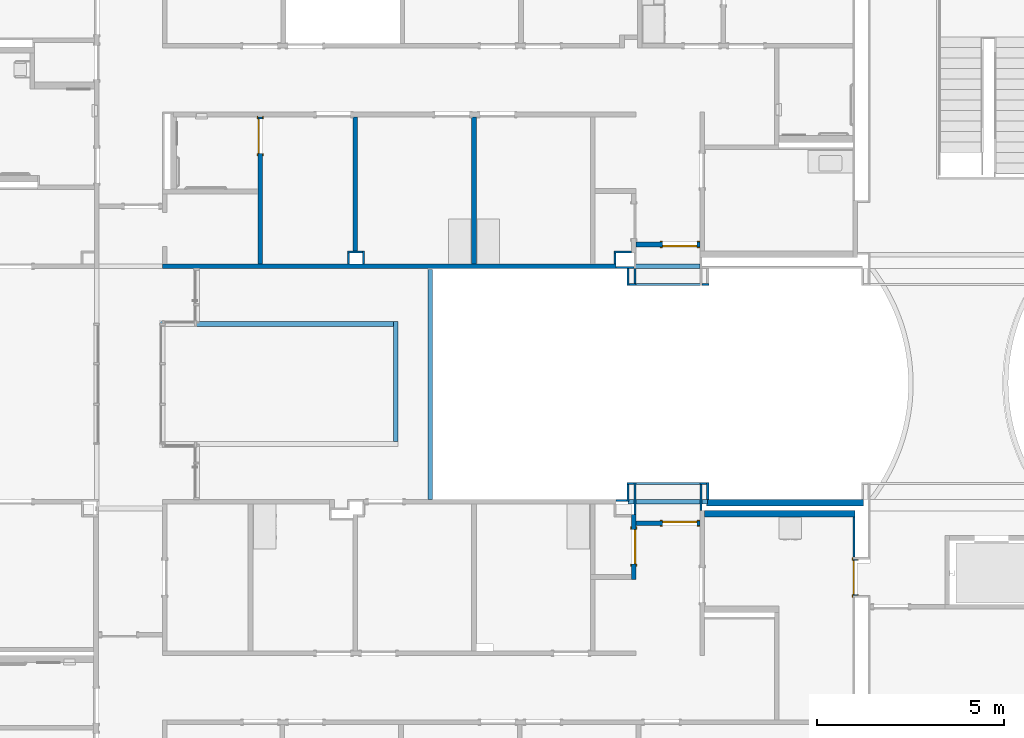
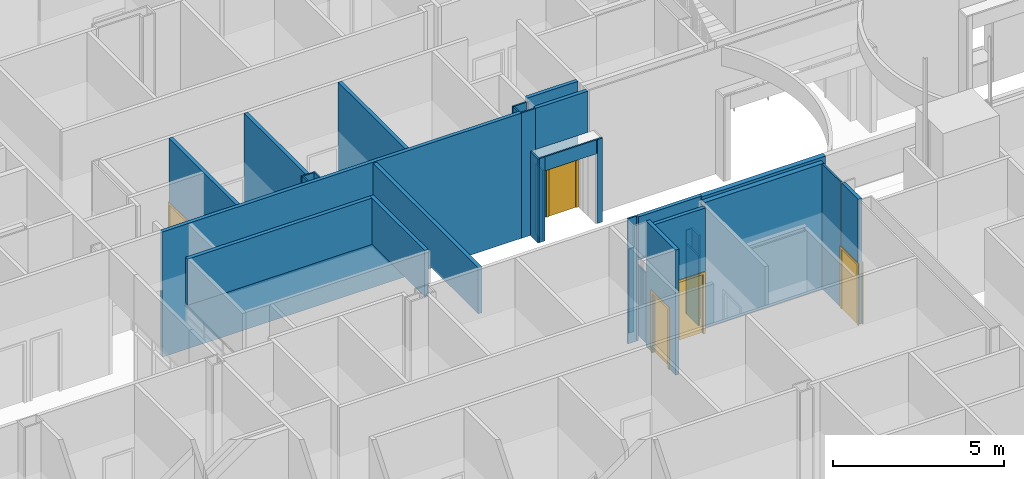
# One storey, part 29 of 87: 35 walls, 5 doors, 5 openings.
"""IFC2X3 building model written with IfcOpenShell, lengths in metres."""

from ifc_helpers import new_model, entity, si_unit, converted_unit, frame, frame_2d, origin, origin_2d_with_axis, place, context, project, spatial, polyline, rectangle, outline, extrude, source, transform, mapped, material, layer, layer_set, layer_usage, type_object, type_shapes, element, fill, save


model = new_model("IFC2X3")

# Units and contexts
model_context = context("Model", 3, precision=1e-09, world=origin())
plan_context = context("Plan", 3, precision=1e-09, world=origin())
ifc_project = project(units=[si_unit("LENGTHUNIT", "METRE"), si_unit("AREAUNIT", "SQUARE_METRE"), si_unit("VOLUMEUNIT", "CUBIC_METRE"), converted_unit("PLANEANGLEUNIT", "DEGREE", entity("IfcRatioMeasure", 0.01745329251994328), si_unit("PLANEANGLEUNIT", "RADIAN"), dimensions=[0, 0, 0, 0, 0, 0, 0]), si_unit("TIMEUNIT", "SECOND")], contexts=[model_context, plan_context])

# Site, building, storey
site_placement = place(None, origin())
site = spatial("IfcSite", under=ifc_project, at=site_placement, Name="Default", CompositionType="ELEMENT")
building_placement = place(site_placement, origin())
building = spatial("IfcBuilding", under=site, at=building_placement, CompositionType="ELEMENT")
storey_placement = place(building_placement, origin())
storey = spatial("IfcBuildingStorey", under=building, at=storey_placement, Name="First Floor", CompositionType="ELEMENT", Elevation=-3.531500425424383e-13)

# Wall
ifc_material_1 = material(Name="Plasterboard")
ifc_layer_1 = layer(ifc_material_1, 0.016)
ifc_material_2 = material(Name="Metal - Stud Layer")
ifc_layer_2 = layer(ifc_material_2, 0.092)
ifc_layer_3 = layer(ifc_material_1, 0.016)
ifc_layer_set_1 = layer_set([ifc_layer_1, ifc_layer_2, ifc_layer_3], Name="Basic Wall:Interior - Partition (92mm Stud)")
ifc_layer_usage_1 = layer_usage(ifc_layer_set_1, "AXIS2", "NEGATIVE", 0.062)
wall_1_placement = place(storey_placement, frame((-26.61400000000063, 34.8415481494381, 0.0), z_axis=(0.0, 0.0, 1.0), x_axis=(-1.0, 0.0, 0.0)))
element("IfcWallStandardCase", 1, at=wall_1_placement, inside=storey, material=ifc_layer_usage_1, Name="Basic Wall:Interior - Partition (92mm Stud)", ObjectType="Basic Wall:Interior - Partition (92mm Stud)", context=model_context, shape_type="SweptSolid", body=[
    extrude(rectangle(XDim=12.106, YDim=0.1239999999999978, at=frame_2d((6.052999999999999, 0.0), x_axis=(-1.0, 0.0))), origin(), (0.0, 0.0, 1.0), 4.468000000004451),
])

# Wall, opening, door
ifc_layer_usage_2 = layer_usage(ifc_layer_set_1, "AXIS2", "NEGATIVE", 0.062)
wall_2_placement = place(storey_placement, frame((-36.11200000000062, 38.8259999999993, 0.0), z_axis=(0.0, 0.0, 1.0), x_axis=(0.0, -1.0, 0.0)))
wall_2 = element("IfcWallStandardCase", 2, at=wall_2_placement, inside=storey, material=ifc_layer_usage_2, Name="Basic Wall:Interior - Partition (92mm Stud)", ObjectType="Basic Wall:Interior - Partition (92mm Stud)", context=model_context, shape_type="SweptSolid", body=[
    extrude(rectangle(XDim=3.922451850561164, YDim=0.1239999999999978, at=frame_2d((1.961225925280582, 0.0), x_axis=(-1.0, 0.0))), origin(), (0.0, 0.0, 1.0), 4.46800000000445),
])
opening_1_placement = place(wall_2_placement, frame((0.974999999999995, 0.06199999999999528, 0.0)))
opening_1 = element("IfcOpeningElement", 3, at=opening_1_placement, cuts=wall_2, Name="M_Single-Flush:0915 x 2134mm:0915 x 2134mm:1", ObjectType="Opening", context=model_context, shape_type="SweptSolid", body=[
    extrude(rectangle(XDim=0.9149999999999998, YDim=2.134, at=frame_2d((1.067, 0.4575), x_axis=(0.0, 1.0))), frame((0.0, 0.0, 0.0), z_axis=(0.0, -1.0, 0.0), x_axis=(0.0, 0.0, 1.0)), (0.0, 0.0, 1.0), 0.124),
])
door_style_1 = type_object("IfcDoorStyle", Name="0915 x 2134mm", ConstructionType="NOTDEFINED", OperationType="SINGLE_SWING_RIGHT", ParameterTakesPrecedence=False, Sizeable=False)
shared_shape_1 = source(origin(), model_context, "Body", "SweptSolid", [
    extrude(outline(polyline([(-0.5335, -1.123999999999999), (0.5334999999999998, -1.123999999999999), (0.5334999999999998, 1.086), (0.4574999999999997, 1.086), (0.4574999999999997, -1.048000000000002), (-0.4574999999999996, -1.048000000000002), (-0.4574999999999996, 1.086), (-0.5335, 1.086), (-0.5335, -1.123999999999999)])), frame((0.4575000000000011, 0.1239999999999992, 1.086), z_axis=(0.0, 1.0, 0.0), x_axis=(1.0, 0.0, 0.0)), (0.0, 0.0, 1.0), 0.02499999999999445),
    extrude(outline(polyline([(-1.123999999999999, -0.5334999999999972), (1.085999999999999, -0.5334999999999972), (1.085999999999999, -0.4575000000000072), (-1.048, -0.4575000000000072), (-1.048, 0.4575000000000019), (1.085999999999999, 0.4575000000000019), (1.085999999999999, 0.5335000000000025), (-1.123999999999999, 0.5335000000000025), (-1.123999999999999, -0.5334999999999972)])), frame((0.4575000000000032, -0.02500000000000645, 1.085999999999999), z_axis=(0.0, 1.0, 0.0), x_axis=(0.0, 0.0, -1.0)), (0.0, 0.0, 1.0), 0.02500000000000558),
    extrude(rectangle(XDim=0.051, YDim=0.9149999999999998, at=origin_2d_with_axis()), frame((0.4575000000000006, 0.09849999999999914, 0.0), z_axis=(0.0, 0.0, 1.0), x_axis=(0.0, 1.0, 0.0)), (0.0, 0.0, 1.0), 2.133999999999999),
])
type_shapes(door_style_1, [shared_shape_1])
door_1_placement = place(opening_1_placement, frame((0.0, 0.0, 0.0), z_axis=(0.0, 0.0, 1.0), x_axis=(-1.0, 0.0, 0.0)))
door_1 = element("IfcDoor", 4, at=door_1_placement, inside=storey, type_object=door_style_1, Name="M_Single-Flush:0915 x 2134mm:0915 x 2134mm", ObjectType="0915 x 2134mm", OverallHeight=2.134, OverallWidth=0.9149999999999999, context=model_context, shape_type="MappedRepresentation", body=[
    mapped(shared_shape_1, transform((0.0, 0.0, 0.0), scale=1.0)),
])
fill(opening_1, door_1)

# Walls
ifc_layer_usage_3 = layer_usage(ifc_layer_set_1, "AXIS2", "NEGATIVE", 0.062)
wall_3_placement = place(storey_placement, frame((-30.40200000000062, 38.82599999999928, 0.0), z_axis=(0.0, 0.0, 1.0), x_axis=(0.0, -1.0, 0.0)))
element("IfcWallStandardCase", 5, at=wall_3_placement, inside=storey, material=ifc_layer_usage_3, Name="Basic Wall:Interior - Partition (92mm Stud)", ObjectType="Basic Wall:Interior - Partition (92mm Stud)", context=model_context, shape_type="SweptSolid", body=[
    extrude(rectangle(XDim=3.922451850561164, YDim=0.1239999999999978, at=frame_2d((1.961225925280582, 0.0), x_axis=(-1.0, 0.0))), origin(), (0.0, 0.0, 1.0), 4.46800000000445),
])
ifc_layer_usage_4 = layer_usage(ifc_layer_set_1, "AXIS2", "NEGATIVE", 0.062)
wall_4_placement = place(storey_placement, frame((-33.57200000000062, 38.82599999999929, 0.0), z_axis=(0.0, 0.0, 1.0), x_axis=(0.0, -1.0, 0.0)))
element("IfcWallStandardCase", 6, at=wall_4_placement, inside=storey, material=ifc_layer_usage_4, Name="Basic Wall:Interior - Partition (92mm Stud)", ObjectType="Basic Wall:Interior - Partition (92mm Stud)", context=model_context, shape_type="SweptSolid", body=[
    extrude(rectangle(XDim=3.586000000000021, YDim=0.1239999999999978, at=frame_2d((1.79300000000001, 0.0), x_axis=(-1.0, 0.0))), origin(), (0.0, 0.0, 1.0), 4.46800000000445),
])

# Wall, opening, door
ifc_layer_usage_5 = layer_usage(ifc_layer_set_1, "AXIS2", "NEGATIVE", 0.062)
wall_5_placement = place(storey_placement, frame((-26.14200000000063, 28.20399999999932, 0.0), z_axis=(0.0, 0.0, 1.0), x_axis=(0.0, -1.0, 0.0)))
wall_5 = element("IfcWallStandardCase", 7, at=wall_5_placement, inside=storey, material=ifc_layer_usage_5, Name="Basic Wall:Interior - Partition (92mm Stud)", ObjectType="Basic Wall:Interior - Partition (92mm Stud)", context=model_context, shape_type="SweptSolid", body=[
    extrude(rectangle(XDim=1.723999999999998, YDim=0.1239999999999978, at=frame_2d((0.861999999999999, 0.0), x_axis=(-1.0, 0.0))), origin(), (0.0, 0.0, 1.0), 4.46800000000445),
])
opening_2_placement = place(wall_5_placement, frame((0.394000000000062, -0.0619999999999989, 0.0)))
opening_2 = element("IfcOpeningElement", 8, at=opening_2_placement, cuts=wall_5, Name="M_Single-Flush:0915 x 2134mm:0915 x 2134mm:1", ObjectType="Opening", context=model_context, shape_type="SweptSolid", body=[
    extrude(rectangle(XDim=0.9149999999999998, YDim=2.134, at=frame_2d((1.067, 0.4575), x_axis=(0.0, 1.0))), frame((0.0, 0.0, 0.0), z_axis=(0.0, 1.0, 0.0), x_axis=(0.0, 0.0, 1.0)), (0.0, 0.0, 1.0), 0.124),
])
door_2_placement = place(opening_2_placement, origin())
door_2 = element("IfcDoor", 9, at=door_2_placement, inside=storey, type_object=door_style_1, Name="M_Single-Flush:0915 x 2134mm:0915 x 2134mm", ObjectType="0915 x 2134mm", OverallHeight=2.134, OverallWidth=0.9149999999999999, context=model_context, shape_type="MappedRepresentation", body=[
    mapped(shared_shape_1, transform((0.0, 0.0, 0.0), scale=1.0)),
])
fill(opening_2, door_2)

# Walls
ifc_layer_4 = layer(ifc_material_2, 0.152)
ifc_layer_5 = layer(ifc_material_1, 0.016)
ifc_layer_set_2 = layer_set([ifc_layer_4, ifc_layer_5], Name="Basic Wall:Interior - Furring (152 mm Stud)")
ifc_layer_usage_6 = layer_usage(ifc_layer_set_2, "AXIS2", "POSITIVE", -0.08399999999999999)
wall_6_placement = place(storey_placement, frame((-24.18900000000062, 28.52599999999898, 0.0)))
element("IfcWallStandardCase", 10, at=wall_6_placement, inside=storey, material=ifc_layer_usage_6, Name="Basic Wall:Interior - Furring (152 mm Stud)", ObjectType="Basic Wall:Interior - Furring (152 mm Stud)", context=model_context, shape_type="SweptSolid", body=[
    extrude(rectangle(XDim=4.183000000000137, YDim=0.1680000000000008, at=frame_2d((2.091500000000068, 0.0), x_axis=(-1.0, 0.0))), origin(), (0.0, 0.0, 1.0), 4.46800000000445),
])
ifc_layer_usage_7 = layer_usage(ifc_layer_set_2, "AXIS2", "POSITIVE", -0.08399999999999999)
wall_7_placement = place(storey_placement, frame((-20.23600000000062, 28.23399999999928, 0.0), z_axis=(0.0, 0.0, 1.0), x_axis=(-1.0, 0.0, 0.0)))
element("IfcWallStandardCase", 11, at=wall_7_placement, inside=storey, material=ifc_layer_usage_7, Name="Basic Wall:Interior - Furring (152 mm Stud)", ObjectType="Basic Wall:Interior - Furring (152 mm Stud)", context=model_context, shape_type="SweptSolid", body=[
    extrude(rectangle(XDim=4.010000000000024, YDim=0.1679999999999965, at=frame_2d((2.005000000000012, 0.0), x_axis=(-1.0, 0.0))), origin(), (0.0, 0.0, 1.0), 4.46800000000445),
])

# Wall, opening, door
ifc_layer_usage_8 = layer_usage(ifc_layer_set_1, "AXIS2", "NEGATIVE", 0.062)
wall_8_placement = place(storey_placement, frame((-26.08000000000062, 35.41799999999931, 0.0)))
wall_8 = element("IfcWallStandardCase", 12, at=wall_8_placement, inside=storey, material=ifc_layer_usage_8, Name="Basic Wall:Interior - Partition (92mm Stud)", ObjectType="Basic Wall:Interior - Partition (92mm Stud)", context=model_context, shape_type="SweptSolid", body=[
    extrude(rectangle(XDim=1.710000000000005, YDim=0.1239999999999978, at=frame_2d((0.8550000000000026, 0.0), x_axis=(-1.0, 0.0))), origin(), (0.0, 0.0, 1.0), 4.46800000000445),
])
opening_3_placement = place(wall_8_placement, frame((1.630000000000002, 0.06199999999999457, 0.0)))
opening_3 = element("IfcOpeningElement", 13, at=opening_3_placement, cuts=wall_8, Name="M_Single-Flush:0915 x 2134mm:0915 x 2134mm:1", ObjectType="Opening", context=model_context, shape_type="SweptSolid", body=[
    extrude(rectangle(XDim=0.9149999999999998, YDim=2.134, at=frame_2d((1.067, 0.4575000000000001), x_axis=(0.0, -1.0))), frame((0.0, 0.0, 0.0), z_axis=(0.0, -1.0, 0.0), x_axis=(0.0, 0.0, 1.0)), (0.0, 0.0, 1.0), 0.124),
])
door_style_2 = type_object("IfcDoorStyle", Name="0915 x 2134mm", ConstructionType="NOTDEFINED", OperationType="SINGLE_SWING_LEFT", ParameterTakesPrecedence=False, Sizeable=False)
shared_shape_2 = source(origin(), model_context, "Body", "SweptSolid", [
    extrude(outline(polyline([(-0.5335, -1.123999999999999), (0.5334999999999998, -1.123999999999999), (0.5334999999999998, 1.086), (0.4574999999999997, 1.086), (0.4574999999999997, -1.048000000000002), (-0.4574999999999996, -1.048000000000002), (-0.4574999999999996, 1.086), (-0.5335, 1.086), (-0.5335, -1.123999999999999)])), frame((0.4575000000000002, 0.1489999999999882, 1.086), z_axis=(0.0, -1.0, 0.0), x_axis=(-1.0, 0.0, 0.0)), (0.0, 0.0, 1.0), 0.02499999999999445),
    extrude(outline(polyline([(-1.123999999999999, -0.5334999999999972), (1.085999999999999, -0.5334999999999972), (1.085999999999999, -0.4575000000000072), (-1.048, -0.4575000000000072), (-1.048, 0.4575000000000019), (1.085999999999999, 0.4575000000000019), (1.085999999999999, 0.5335000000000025), (-1.123999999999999, 0.5335000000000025), (-1.123999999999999, -0.5334999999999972)])), frame((0.4574999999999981, 0.0, 1.085999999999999), z_axis=(0.0, -1.0, 0.0), x_axis=(0.0, 0.0, -1.0)), (0.0, 0.0, 1.0), 0.02500000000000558),
    extrude(rectangle(XDim=0.9149999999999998, YDim=0.051, at=origin_2d_with_axis()), frame((0.4575000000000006, 0.09849999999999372, 0.0)), (0.0, 0.0, 1.0), 2.133999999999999),
])
type_shapes(door_style_2, [shared_shape_2])
door_3_placement = place(opening_3_placement, frame((0.0, 0.0, 0.0), z_axis=(0.0, 0.0, 1.0), x_axis=(-1.0, 0.0, 0.0)))
door_3 = element("IfcDoor", 14, at=door_3_placement, inside=storey, type_object=door_style_2, Name="M_Single-Flush:0915 x 2134mm:0915 x 2134mm", ObjectType="0915 x 2134mm", OverallHeight=2.134, OverallWidth=0.9149999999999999, context=model_context, shape_type="MappedRepresentation", body=[
    mapped(shared_shape_2, transform((0.0, 0.0, 0.0), scale=1.0)),
])
fill(opening_3, door_3)

ifc_layer_usage_9 = layer_usage(ifc_layer_set_1, "AXIS2", "NEGATIVE", 0.062)
wall_9_placement = place(storey_placement, frame((-24.37000000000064, 27.97199999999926, 0.0), z_axis=(0.0, 0.0, 1.0), x_axis=(-1.0, 0.0, 0.0)))
wall_9 = element("IfcWallStandardCase", 15, at=wall_9_placement, inside=storey, material=ifc_layer_usage_9, Name="Basic Wall:Interior - Partition (92mm Stud)", ObjectType="Basic Wall:Interior - Partition (92mm Stud)", context=model_context, shape_type="SweptSolid", body=[
    extrude(rectangle(XDim=1.709999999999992, YDim=0.1239999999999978, at=frame_2d((0.8549999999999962, 0.0), x_axis=(-1.0, 0.0))), origin(), (0.0, 0.0, 1.0), 4.46800000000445),
])
opening_4_placement = place(wall_9_placement, frame((0.9950000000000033, 0.0619999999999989, 0.0)))
opening_4 = element("IfcOpeningElement", 16, at=opening_4_placement, cuts=wall_9, Name="M_Single-Flush:0915 x 2134mm:0915 x 2134mm:1", ObjectType="Opening", context=model_context, shape_type="SweptSolid", body=[
    extrude(rectangle(XDim=0.9149999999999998, YDim=2.134, at=frame_2d((1.067, 0.4575), x_axis=(0.0, 1.0))), frame((0.0, 0.0, 0.0), z_axis=(0.0, -1.0, 0.0), x_axis=(0.0, 0.0, 1.0)), (0.0, 0.0, 1.0), 0.124),
])
door_4_placement = place(opening_4_placement, frame((0.0, 0.0, 0.0), z_axis=(0.0, 0.0, 1.0), x_axis=(-1.0, 0.0, 0.0)))
door_4 = element("IfcDoor", 17, at=door_4_placement, inside=storey, type_object=door_style_1, Name="M_Single-Flush:0915 x 2134mm:0915 x 2134mm", ObjectType="0915 x 2134mm", OverallHeight=2.134, OverallWidth=0.9149999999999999, context=model_context, shape_type="MappedRepresentation", body=[
    mapped(shared_shape_1, transform((0.0, 0.0, 0.0), scale=1.0)),
])
fill(opening_4, door_4)

# Walls
ifc_layer_usage_10 = layer_usage(ifc_layer_set_1, "AXIS2", "NEGATIVE", 0.062)
wall_10_placement = place(storey_placement, frame((-24.16200000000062, 28.54799999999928, 3.0), z_axis=(0.0, 0.0, 1.0), x_axis=(-1.0, 0.0, 0.0)))
element("IfcWallStandardCase", 18, at=wall_10_placement, inside=storey, material=ifc_layer_usage_10, Name="Basic Wall:Interior - Partition (92mm Stud)", ObjectType="Basic Wall:Interior - Partition (92mm Stud)", context=model_context, shape_type="SweptSolid", body=[
    extrude(rectangle(XDim=2.126000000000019, YDim=0.1239999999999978, at=frame_2d((1.06300000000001, 0.0), x_axis=(-1.0, 0.0))), origin(), (0.0, 0.0, 1.0), 1.46800000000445),
])
ifc_layer_usage_11 = layer_usage(ifc_layer_set_1, "AXIS2", "NEGATIVE", 0.062)
wall_11_placement = place(storey_placement, frame((-31.57200000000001, 34.75479450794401, 2.8), z_axis=(0.0, 0.0, 1.0), x_axis=(0.0, -1.0, 0.0)))
element("IfcWallStandardCase", 19, at=wall_11_placement, inside=storey, material=ifc_layer_usage_11, Name="Basic Wall:Interior - Partition (92mm Stud)", ObjectType="Basic Wall:Interior - Partition (92mm Stud)", context=model_context, shape_type="SweptSolid", body=[
    extrude(rectangle(XDim=6.144794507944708, YDim=0.1239999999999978, at=frame_2d((3.072397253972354, 0.0), x_axis=(-1.0, 0.0))), origin(), (0.0, 0.0, 1.0), 1.650000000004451),
])
ifc_layer_usage_12 = layer_usage(ifc_layer_set_1, "AXIS2", "NEGATIVE", 0.062)
wall_12_placement = place(storey_placement, frame((-24.37000000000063, 34.8415481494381, 3.0), z_axis=(0.0, 0.0, 1.0), x_axis=(-1.0, 0.0, 0.0)))
element("IfcWallStandardCase", 20, at=wall_12_placement, inside=storey, material=ifc_layer_usage_12, Name="Basic Wall:Interior - Partition (92mm Stud)", ObjectType="Basic Wall:Interior - Partition (92mm Stud)", context=model_context, shape_type="SweptSolid", body=[
    extrude(rectangle(XDim=1.763999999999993, YDim=0.1239999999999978, at=frame_2d((0.8819999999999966, 0.0), x_axis=(-1.0, 0.0))), origin(), (0.0, 0.0, 1.0), 1.46800000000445),
])
ifc_layer_usage_13 = layer_usage(ifc_layer_set_1, "AXIS2", "NEGATIVE", 0.062)
wall_13_placement = place(storey_placement, frame((-32.54900000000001, 33.2969999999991, 2.8), z_axis=(0.0, 0.0, 1.0), x_axis=(-1.0, 0.0, 0.0)))
element("IfcWallStandardCase", 21, at=wall_13_placement, inside=storey, material=ifc_layer_usage_13, Name="Basic Wall:Interior - Partition (92mm Stud)", ObjectType="Basic Wall:Interior - Partition (92mm Stud)", context=model_context, shape_type="SweptSolid", body=[
    extrude(rectangle(XDim=6.220000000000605, YDim=0.1239999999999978, at=frame_2d((3.110000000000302, 0.0), x_axis=(-1.0, 0.0))), origin(), (0.0, 0.0, 1.0), 1.650000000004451),
])
ifc_layer_usage_14 = layer_usage(ifc_layer_set_1, "AXIS2", "NEGATIVE", 0.062)
wall_14_placement = place(storey_placement, frame((-32.48700000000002, 30.15499999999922, 2.8), z_axis=(0.0, 0.0, 1.0), x_axis=(0.0, 1.0, 0.0)))
element("IfcWallStandardCase", 22, at=wall_14_placement, inside=storey, material=ifc_layer_usage_14, Name="Basic Wall:Interior - Partition (92mm Stud)", ObjectType="Basic Wall:Interior - Partition (92mm Stud)", context=model_context, shape_type="SweptSolid", body=[
    extrude(rectangle(XDim=3.203999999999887, YDim=0.1239999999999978, at=frame_2d((1.601999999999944, 0.0), x_axis=(-1.0, 0.0))), origin(), (0.0, 0.0, 1.0), 1.650000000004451),
])
ifc_layer_6 = layer(ifc_material_2, 0.038)
ifc_layer_7 = layer(ifc_material_1, 0.016)
ifc_layer_set_3 = layer_set([ifc_layer_6, ifc_layer_7], Name="Basic Wall:Interior - Furring (38 mm Stud)")
ifc_layer_usage_15 = layer_usage(ifc_layer_set_3, "AXIS2", "NEGATIVE", 0.027)
wall_15_placement = place(storey_placement, frame((-24.16200000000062, 28.60999999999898, 0.0), z_axis=(0.0, 0.0, 1.0), x_axis=(0.0, 1.0, 0.0)))
element("IfcWallStandardCase", 23, at=wall_15_placement, inside=storey, material=ifc_layer_usage_15, Name="Basic Wall:Interior - Furring (38 mm Stud)", ObjectType="Basic Wall:Interior - Furring (38 mm Stud)", context=model_context, shape_type="SweptSolid", body=[
    extrude(rectangle(XDim=0.4600000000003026, YDim=0.05399999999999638, at=frame_2d((0.2300000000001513, 0.0), x_axis=(-1.0, 0.0))), origin(), (0.0, 0.0, 1.0), 3.0),
])
ifc_layer_usage_16 = layer_usage(ifc_layer_set_3, "AXIS2", "NEGATIVE", 0.027)
wall_16_placement = place(storey_placement, frame((-24.18900000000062, 29.04299999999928, 0.0), z_axis=(0.0, 0.0, 1.0), x_axis=(-1.0, 0.0, 0.0)))
element("IfcWallStandardCase", 24, at=wall_16_placement, inside=storey, material=ifc_layer_usage_16, Name="Basic Wall:Interior - Furring (38 mm Stud)", ObjectType="Basic Wall:Interior - Furring (38 mm Stud)", context=model_context, shape_type="SweptSolid", body=[
    extrude(rectangle(XDim=0.1810000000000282, YDim=0.05399999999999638, at=frame_2d((0.09050000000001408, 0.0), x_axis=(-1.0, 0.0))), origin(), (0.0, 0.0, 1.0), 3.0),
])
ifc_layer_usage_17 = layer_usage(ifc_layer_set_3, "AXIS2", "NEGATIVE", 0.027)
wall_17_placement = place(storey_placement, frame((-24.34300000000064, 29.01599999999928, 0.0), z_axis=(0.0, 0.0, 1.0), x_axis=(0.0, -1.0, 0.0)))
element("IfcWallStandardCase", 25, at=wall_17_placement, inside=storey, material=ifc_layer_usage_17, Name="Basic Wall:Interior - Furring (38 mm Stud)", ObjectType="Basic Wall:Interior - Furring (38 mm Stud)", context=model_context, shape_type="SweptSolid", body=[
    extrude(rectangle(XDim=0.6979999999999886, YDim=0.05399999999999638, at=frame_2d((0.3489999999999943, 0.0), x_axis=(-1.0, 0.0))), origin(), (0.0, 0.0, 1.0), 2.5),
])
ifc_layer_usage_18 = layer_usage(ifc_layer_set_3, "AXIS2", "NEGATIVE", 0.027)
wall_18_placement = place(storey_placement, frame((-26.10700000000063, 28.20399999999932, 0.0), z_axis=(0.0, 0.0, 1.0), x_axis=(0.0, 1.0, 0.0)))
element("IfcWallStandardCase", 26, at=wall_18_placement, inside=storey, material=ifc_layer_usage_18, Name="Basic Wall:Interior - Furring (38 mm Stud)", ObjectType="Basic Wall:Interior - Furring (38 mm Stud)", context=model_context, shape_type="SweptSolid", body=[
    extrude(rectangle(XDim=0.865999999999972, YDim=0.05399999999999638, at=frame_2d((0.432999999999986, 0.0), x_axis=(-1.0, 0.0))), origin(), (0.0, 0.0, 1.0), 2.5),
])
ifc_layer_usage_19 = layer_usage(ifc_layer_set_3, "AXIS2", "NEGATIVE", 0.027)
wall_19_placement = place(storey_placement, frame((-26.10700000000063, 29.04299999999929, 0.0), z_axis=(0.0, 0.0, 1.0), x_axis=(-1.0, 0.0, 0.0)))
element("IfcWallStandardCase", 27, at=wall_19_placement, inside=storey, material=ifc_layer_usage_19, Name="Basic Wall:Interior - Furring (38 mm Stud)", ObjectType="Basic Wall:Interior - Furring (38 mm Stud)", context=model_context, shape_type="SweptSolid", body=[
    extrude(rectangle(XDim=0.1810000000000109, YDim=0.05400000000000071, at=frame_2d((0.1175000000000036, 0.0), x_axis=(-1.0, 0.0))), origin(), (0.0, 0.0, 1.0), 3.0),
])
ifc_layer_usage_20 = layer_usage(ifc_layer_set_3, "AXIS2", "NEGATIVE", 0.027)
wall_20_placement = place(storey_placement, frame((-26.28800000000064, 29.01599999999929, 0.0), z_axis=(0.0, 0.0, 1.0), x_axis=(0.0, -1.0, 0.0)))
element("IfcWallStandardCase", 28, at=wall_20_placement, inside=storey, material=ifc_layer_usage_20, Name="Basic Wall:Interior - Furring (38 mm Stud)", ObjectType="Basic Wall:Interior - Furring (38 mm Stud)", context=model_context, shape_type="SweptSolid", body=[
    extrude(rectangle(XDim=0.4600000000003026, YDim=0.05399999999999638, at=frame_2d((0.2300000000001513, 0.0), x_axis=(-1.0, 0.0))), origin(), (0.0, 0.0, 1.0), 3.0),
])
ifc_layer_usage_21 = layer_usage(ifc_layer_set_3, "AXIS2", "NEGATIVE", 0.027)
wall_21_placement = place(storey_placement, frame((-20.26300000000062, 28.14999999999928, 0.0), z_axis=(0.0, 0.0, 1.0), x_axis=(0.0, -1.0, 0.0)))
element("IfcWallStandardCase", 29, at=wall_21_placement, inside=storey, material=ifc_layer_usage_21, Name="Basic Wall:Interior - Furring (38 mm Stud)", ObjectType="Basic Wall:Interior - Furring (38 mm Stud)", context=model_context, shape_type="SweptSolid", body=[
    extrude(rectangle(XDim=1.080999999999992, YDim=0.05399999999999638, at=frame_2d((0.5404999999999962, 0.0), x_axis=(-1.0, 0.0))), origin(), (0.0, 0.0, 1.0), 4.46800000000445),
])

# Wall, opening, door
ifc_layer_usage_22 = layer_usage(ifc_layer_set_1, "AXIS2", "POSITIVE", -0.062)
wall_22_placement = place(storey_placement, frame((-20.22800000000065, 27.01499999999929, 0.0), z_axis=(0.0, 0.0, 1.0), x_axis=(0.0, -1.0, 0.0)))
wall_22 = element("IfcWallStandardCase", 30, at=wall_22_placement, inside=storey, material=ifc_layer_usage_22, Name="Basic Wall:Interior - Partition (92mm Stud)", ObjectType="Basic Wall:Interior - Partition (92mm Stud)", context=model_context, shape_type="SweptSolid", body=[
    extrude(rectangle(XDim=0.9690000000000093, YDim=0.1239999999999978, at=frame_2d((0.4845000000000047, 0.0), x_axis=(-1.0, 0.0))), origin(), (0.0, 0.0, 1.0), 4.46800000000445),
])
opening_5_placement = place(wall_22_placement, frame((0.942000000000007, 0.06200000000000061, 0.0)))
opening_5 = element("IfcOpeningElement", 31, at=opening_5_placement, cuts=wall_22, Name="M_Single-Flush:0915 x 2134mm:0915 x 2134mm:1", ObjectType="Opening", context=model_context, shape_type="SweptSolid", body=[
    extrude(rectangle(XDim=0.9149999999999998, YDim=2.134, at=frame_2d((1.067, 0.4575000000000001), x_axis=(0.0, -1.0))), frame((0.0, 0.0, 0.0), z_axis=(0.0, -1.0, 0.0), x_axis=(0.0, 0.0, 1.0)), (0.0, 0.0, 1.0), 0.124),
])
door_5_placement = place(opening_5_placement, frame((0.0, 0.0, 0.0), z_axis=(0.0, 0.0, 1.0), x_axis=(-1.0, 0.0, 0.0)))
door_5 = element("IfcDoor", 32, at=door_5_placement, inside=storey, type_object=door_style_2, Name="M_Single-Flush:0915 x 2134mm:0915 x 2134mm", ObjectType="0915 x 2134mm", OverallHeight=2.134, OverallWidth=0.9149999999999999, context=model_context, shape_type="MappedRepresentation", body=[
    mapped(shared_shape_2, transform((0.0, 0.0, 0.0), scale=1.0)),
])
fill(opening_5, door_5)

# Walls
ifc_layer_usage_23 = layer_usage(ifc_layer_set_3, "AXIS2", "NEGATIVE", 0.027)
wall_23_placement = place(storey_placement, frame((-26.28800000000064, 28.58299999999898, 0.0), z_axis=(0.0, 0.0, 1.0), x_axis=(-1.0, 0.0, 0.0)))
element("IfcWallStandardCase", 33, at=wall_23_placement, inside=storey, material=ifc_layer_usage_23, Name="Basic Wall:Interior - Furring (38 mm Stud)", ObjectType="Basic Wall:Interior - Furring (38 mm Stud)", context=model_context, shape_type="SweptSolid", body=[
    extrude(rectangle(XDim=0.3009999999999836, YDim=0.05400000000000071, at=frame_2d((0.1774999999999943, 0.0), x_axis=(-1.0, 0.0))), origin(), (0.0, 0.0, 1.0), 4.46800000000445),
])
ifc_layer_usage_24 = layer_usage(ifc_layer_set_3, "AXIS2", "NEGATIVE", 0.027)
wall_24_placement = place(storey_placement, frame((-33.34700000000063, 34.90354814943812, 0.0), z_axis=(0.0, 0.0, 1.0), x_axis=(0.0, 1.0, 0.0)))
element("IfcWallStandardCase", 34, at=wall_24_placement, inside=storey, material=ifc_layer_usage_24, Name="Basic Wall:Interior - Furring (38 mm Stud)", ObjectType="Basic Wall:Interior - Furring (38 mm Stud)", context=model_context, shape_type="SweptSolid", body=[
    extrude(rectangle(XDim=0.3364518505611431, YDim=0.05399999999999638, at=frame_2d((0.1682259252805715, 0.0), x_axis=(-1.0, 0.0))), origin(), (0.0, 0.0, 1.0), 4.46800000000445),
])
ifc_layer_usage_25 = layer_usage(ifc_layer_set_3, "AXIS2", "NEGATIVE", 0.027)
wall_25_placement = place(storey_placement, frame((-33.37400000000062, 35.21299999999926, 0.0), z_axis=(0.0, 0.0, 1.0), x_axis=(-1.0, 0.0, 0.0)))
element("IfcWallStandardCase", 35, at=wall_25_placement, inside=storey, material=ifc_layer_usage_25, Name="Basic Wall:Interior - Furring (38 mm Stud)", ObjectType="Basic Wall:Interior - Furring (38 mm Stud)", context=model_context, shape_type="SweptSolid", body=[
    extrude(rectangle(XDim=0.4060000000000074, YDim=0.05399999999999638, at=frame_2d((0.2030000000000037, 0.0), x_axis=(-1.0, 0.0))), origin(), (0.0, 0.0, 1.0), 4.46800000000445),
])
ifc_layer_usage_26 = layer_usage(ifc_layer_set_3, "AXIS2", "NEGATIVE", 0.027)
wall_26_placement = place(storey_placement, frame((-33.75300000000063, 35.18599999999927, 0.0), z_axis=(0.0, 0.0, 1.0), x_axis=(0.0, -1.0, 0.0)))
element("IfcWallStandardCase", 36, at=wall_26_placement, inside=storey, material=ifc_layer_usage_26, Name="Basic Wall:Interior - Furring (38 mm Stud)", ObjectType="Basic Wall:Interior - Furring (38 mm Stud)", context=model_context, shape_type="SweptSolid", body=[
    extrude(rectangle(XDim=0.2824518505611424, YDim=0.05399999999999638, at=frame_2d((0.1412259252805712, 0.0), x_axis=(-1.0, 0.0))), origin(), (0.0, 0.0, 1.0), 4.46800000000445),
])
ifc_layer_usage_27 = layer_usage(ifc_layer_set_3, "AXIS2", "NEGATIVE", 0.027)
wall_27_placement = place(storey_placement, frame((-26.20400000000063, 35.21299999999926, 0.0), z_axis=(0.0, 0.0, 1.0), x_axis=(-1.0, 0.0, 0.0)))
element("IfcWallStandardCase", 37, at=wall_27_placement, inside=storey, material=ifc_layer_usage_27, Name="Basic Wall:Interior - Furring (38 mm Stud)", ObjectType="Basic Wall:Interior - Furring (38 mm Stud)", context=model_context, shape_type="SweptSolid", body=[
    extrude(rectangle(XDim=0.4639999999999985, YDim=0.05399999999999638, at=frame_2d((0.2319999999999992, 0.0), x_axis=(-1.0, 0.0))), origin(), (0.0, 0.0, 1.0), 4.46800000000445),
])
ifc_layer_usage_28 = layer_usage(ifc_layer_set_3, "AXIS2", "NEGATIVE", 0.027)
wall_28_placement = place(storey_placement, frame((-26.64100000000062, 35.18599999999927, 0.0), z_axis=(0.0, 0.0, 1.0), x_axis=(0.0, -1.0, 0.0)))
element("IfcWallStandardCase", 38, at=wall_28_placement, inside=storey, material=ifc_layer_usage_28, Name="Basic Wall:Interior - Furring (38 mm Stud)", ObjectType="Basic Wall:Interior - Furring (38 mm Stud)", context=model_context, shape_type="SweptSolid", body=[
    extrude(rectangle(XDim=0.282451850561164, YDim=0.05399999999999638, at=frame_2d((0.141225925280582, 0.0), x_axis=(-1.0, 0.0))), origin(), (0.0, 0.0, 1.0), 4.46800000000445),
])
ifc_layer_usage_29 = layer_usage(ifc_layer_set_3, "AXIS2", "NEGATIVE", 0.027)
wall_29_placement = place(storey_placement, frame((-26.61400000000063, 34.8065481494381, 0.0)))
element("IfcWallStandardCase", 39, at=wall_29_placement, inside=storey, material=ifc_layer_usage_29, Name="Basic Wall:Interior - Furring (38 mm Stud)", ObjectType="Basic Wall:Interior - Furring (38 mm Stud)", context=model_context, shape_type="SweptSolid", body=[
    extrude(rectangle(XDim=0.4800000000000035, YDim=0.05399999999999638, at=frame_2d((0.2400000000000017, 0.0), x_axis=(-1.0, 0.0))), origin(), (0.0, 0.0, 1.0), 4.46800000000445),
])
ifc_layer_usage_30 = layer_usage(ifc_layer_set_3, "AXIS2", "NEGATIVE", 0.027)
wall_30_placement = place(storey_placement, frame((-26.28800000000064, 34.77954814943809, 0.0), z_axis=(0.0, 0.0, 1.0), x_axis=(0.0, -1.0, 0.0)))
element("IfcWallStandardCase", 40, at=wall_30_placement, inside=storey, material=ifc_layer_usage_30, Name="Basic Wall:Interior - Furring (38 mm Stud)", ObjectType="Basic Wall:Interior - Furring (38 mm Stud)", context=model_context, shape_type="SweptSolid", body=[
    extrude(rectangle(XDim=0.4595462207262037, YDim=0.05399999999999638, at=frame_2d((0.2297731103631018, 0.0), x_axis=(-1.0, 0.0))), origin(), (0.0, 0.0, 1.0), 3.0),
])
ifc_layer_usage_31 = layer_usage(ifc_layer_set_3, "AXIS2", "NEGATIVE", 0.027)
wall_31_placement = place(storey_placement, frame((-26.26100000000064, 34.34700192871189, 0.0)))
element("IfcWallStandardCase", 41, at=wall_31_placement, inside=storey, material=ifc_layer_usage_31, Name="Basic Wall:Interior - Furring (38 mm Stud)", ObjectType="Basic Wall:Interior - Furring (38 mm Stud)", context=model_context, shape_type="SweptSolid", body=[
    extrude(rectangle(XDim=0.1810000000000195, YDim=0.05399999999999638, at=frame_2d((0.09050000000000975, 0.0), x_axis=(-1.0, 0.0))), origin(), (0.0, 0.0, 1.0), 3.0),
])
ifc_layer_usage_32 = layer_usage(ifc_layer_set_3, "AXIS2", "NEGATIVE", 0.027)
wall_32_placement = place(storey_placement, frame((-26.10700000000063, 34.37400192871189, 0.0), z_axis=(0.0, 0.0, 1.0), x_axis=(0.0, 1.0, 0.0)))
element("IfcWallStandardCase", 42, at=wall_32_placement, inside=storey, material=ifc_layer_usage_32, Name="Basic Wall:Interior - Furring (38 mm Stud)", ObjectType="Basic Wall:Interior - Furring (38 mm Stud)", context=model_context, shape_type="SweptSolid", body=[
    extrude(rectangle(XDim=0.4055462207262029, YDim=0.05399999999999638, at=frame_2d((0.2027731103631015, 0.0), x_axis=(-1.0, 0.0))), origin(), (0.0, 0.0, 1.0), 2.5),
])
ifc_layer_usage_33 = layer_usage(ifc_layer_set_3, "AXIS2", "NEGATIVE", 0.027)
wall_33_placement = place(storey_placement, frame((-24.34300000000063, 34.34700192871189, 0.0)))
element("IfcWallStandardCase", 43, at=wall_33_placement, inside=storey, material=ifc_layer_usage_33, Name="Basic Wall:Interior - Furring (38 mm Stud)", ObjectType="Basic Wall:Interior - Furring (38 mm Stud)", context=model_context, shape_type="SweptSolid", body=[
    extrude(rectangle(XDim=0.1810000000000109, YDim=0.05400000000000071, at=frame_2d((0.1175000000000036, 0.0), x_axis=(-1.0, 0.0))), origin(), (0.0, 0.0, 1.0), 3.0),
])
ifc_layer_usage_34 = layer_usage(ifc_layer_set_3, "AXIS2", "NEGATIVE", 0.027)
wall_34_placement = place(storey_placement, frame((-26.10700000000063, 34.34700192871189, 2.5)))
element("IfcWallStandardCase", 44, at=wall_34_placement, inside=storey, material=ifc_layer_usage_34, Name="Basic Wall:Interior - Furring (38 mm Stud)", ObjectType="Basic Wall:Interior - Furring (38 mm Stud)", context=model_context, shape_type="SweptSolid", body=[
    extrude(rectangle(XDim=1.763999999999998, YDim=0.05399999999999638, at=frame_2d((0.8819999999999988, 0.0), x_axis=(-1.0, 0.0))), origin(), (0.0, 0.0, 1.0), 0.5),
])
ifc_layer_usage_35 = layer_usage(ifc_layer_set_3, "AXIS2", "POSITIVE", -0.027)
wall_35_placement = place(storey_placement, frame((-26.10700000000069, 29.04299807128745, 2.5)))
element("IfcWallStandardCase", 45, at=wall_35_placement, inside=storey, material=ifc_layer_usage_35, Name="Basic Wall:Interior - Furring (38 mm Stud)", ObjectType="Basic Wall:Interior - Furring (38 mm Stud)", context=model_context, shape_type="SweptSolid", body=[
    extrude(rectangle(XDim=1.763999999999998, YDim=0.05399999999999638, at=frame_2d((0.8819999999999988, 0.0), x_axis=(-1.0, 0.0))), origin(), (0.0, 0.0, 1.0), 0.5),
])

save(model, "model.ifc")
